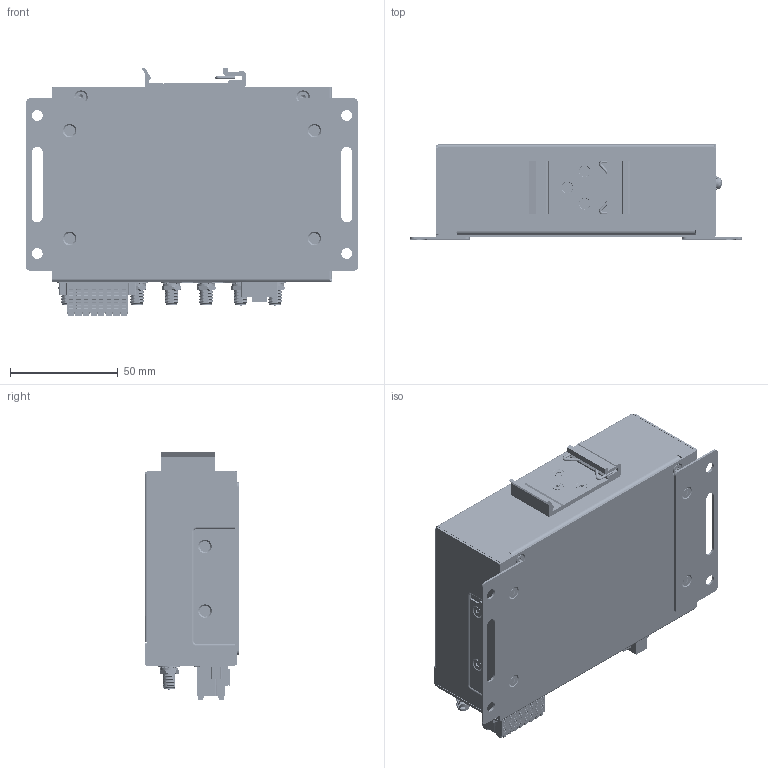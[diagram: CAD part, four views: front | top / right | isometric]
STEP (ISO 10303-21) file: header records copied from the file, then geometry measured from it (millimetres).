
FILE_DESCRIPTION (( 'STEP AP214' ), '1' );
FILE_NAME ('ICR-4271W.STEP', '2024-11-05T09:07:24', ( '' ), ( '' ), 'SwSTEP 2.0', 'SolidWorks 2024', '' );
FILE_SCHEMA (( 'AUTOMOTIVE_DESIGN' ));
Length unit declared in the file: millimetre
Products named in the file (51): SCR_BK_M3_L4_TX8_FL_SCR; SCR_ZC_M3_L10_PH_PW; PCI_Female_Connector_52P; chassisWallMount; SCR_BK_M3_L5_PH_FL_TW; PCB_ICR-4(1,2)xx; Label_42W2C4G1; DIN_25_AL; CON_WR2; CON-ICR28-16; WAS_ZC_2_SR; ThermalTape; SCR_ZC_M3_L6_PH_PW; Case_for_ICR-4(1,2)xx; Dip_Switch_2_positon; SIM_holder; Micro_SD_card_holder; Bottom_Base_for_ICR-4(1,2)xx; SCR_ZC_M3_L6_PH_PW_2; ICR-4271W; ChassisSimCover; Pin_header_6x2P; Battery_SMT_holder_Keystone-PN3000; POST_D4,5xL5; RJ45_2x_Connector; Tact_Switch_right_angle; USB_3_0_type_A; B-ICR41(2)xx-4_B-ICR42xxLS-4; SCR_ZC_M2_L5_PH_P_M2x5; FN990A28; PCI_Female_Connector_67P; AlluminiumCooler; Lightpipe_4P; Micro_SD_card_holder_part_1; Micro_SD_card_holder_part_2; ANT_PG_L200_R-SMA_UFL; CDS_M_H5_W7,3_CHM3; ChassisBottom; Pluggable_Term_Blk_2P; BAT_CR1225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
Assembly tree (74 placements, depth 5):
  ICR-4271W
    Chassis_package-ICR-4(1,2)xx
      Case_for_ICR-4(1,2)xx
        Bottom_Base_for_ICR-4(1,2)xx
          ChassisBottom
          CDS_M_H5_W7,3_CHM3  x4
        ChassisTop
      ChassisSimCover
      ThermalTape
      chassisWallMount  x2
      AlluminiumCooler
    B-ICR41(2)xx-4_B-ICR42xxLS-4
      PCB_ICR-4(1,2)xx
      PCI_Female_Connector_52P
      POST_D4,5xL5
      Battery_SMT_holder_Keystone-PN3000
      Lightpipe_4P  x2
      RJ45_2x_Connector
      USB_3_0_type_A
      IO_Header_16P
      POST_D6xL4
      PCI_Female_Connector_67P
      SIM_holder  x2
      Tact_Switch_right_angle
      Radial_THT_Capacitor
      Pluggable_Term_Blk_2P
      Micro_SD_card_holder
        Micro_SD_card_holder_part_1
        Micro_SD_card_holder_part_2
      Dip_Switch_2_positon
      Pin_header_6x2P
    CON_WR2
    CON-ICR28-16
    BAT_CR1225
    DIN_25_AL
    Label_SIM_SD_IO_configuration_SIM_IO
    Label_42W2C4G1
    Thermal_pad_46x30
    CoolingPadCellular  x2
    WPEQ-268AXI
    FN990A28
    ANT_PG_L200_R-SMA_UFL  x2
    ANT_PG_L150_SMA_I  x5
    SCR_BK_M3_L4_TX8_FL_SCR  x4
    SCR_BK_M3_L5_PH_FL_TW_GLUE  x7
    SCR_BK_M3_L5_PH_FL_TW  x2
    SCR_ZC_M3_L6_PH_PW_2
    SCR_ZC_M3_L10_PH_PW
    SCR_ZC_M3_L6_PH_PW  x3
    SCR_ZC_M2_L5_PH_P_M2x5
    WAS_ZC_2_SR
Bounding box: 153.9 x 44 x 115.39 mm (x, y, z)
Volume: 107942.4 mm3; surface area: 215319.5 mm2
Topology: 184 solids, 251 shells, 20021 faces, 54593 edges, 35748 vertices
Faces by surface type: plane 11005, cylinder 4247, bspline 3907, cone 539, torus 231, sphere 92
Entity records: 707155 total; most frequent: CARTESIAN_POINT 230655, ORIENTED_EDGE 94928, DIRECTION 73233, EDGE_CURVE 47661, VERTEX_POINT 31142, VECTOR 30263, LINE 30263, AXIS2_PLACEMENT_3D 21485
